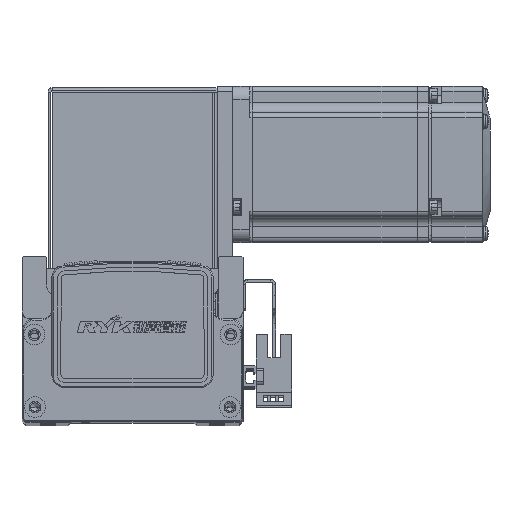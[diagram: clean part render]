
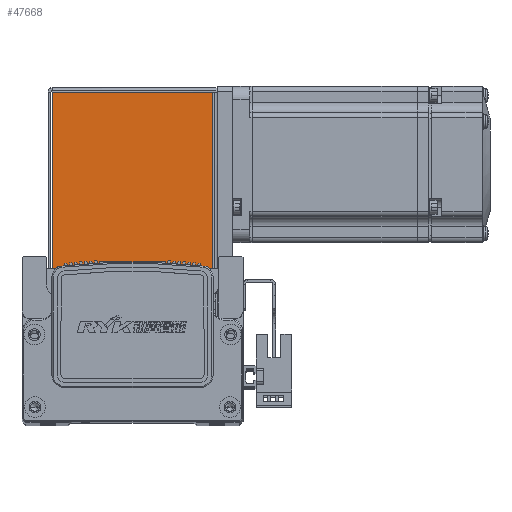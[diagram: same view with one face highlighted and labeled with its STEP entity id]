
A CAD part, top view. The second image highlights one B-rep face of the part: STEP entity #47668.
In plain terms, the highlighted planar face has unit normal (0, 0, 1) as drawn and (0, 0, -1) by its records, which use the part's own axes.
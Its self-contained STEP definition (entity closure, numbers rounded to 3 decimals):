
#16379 = EDGE_CURVE ( 'NONE', #18334, #18279, #54051, .T. ) ;
#16397 = EDGE_CURVE ( 'NONE', #18296, #18279, #54029, .T. ) ;
#16398 = EDGE_CURVE ( 'NONE', #18278, #18334, #54013, .T. ) ;
#16422 = EDGE_CURVE ( 'NONE', #18296, #18278, #54080, .T. ) ;
#18278 = VERTEX_POINT ( 'NONE', #47576 ) ;
#18279 = VERTEX_POINT ( 'NONE', #47567 ) ;
#18296 = VERTEX_POINT ( 'NONE', #47460 ) ;
#18334 = VERTEX_POINT ( 'NONE', #47719 ) ;
#42952 = ORIENTED_EDGE ( 'NONE', *, *, #16422, .T. ) ;
#42978 = ORIENTED_EDGE ( 'NONE', *, *, #16398, .T. ) ;
#43011 = ORIENTED_EDGE ( 'NONE', *, *, #16397, .F. ) ;
#43032 = ORIENTED_EDGE ( 'NONE', *, *, #16379, .T. ) ;
#47460 = CARTESIAN_POINT ( 'NONE',  ( -30.793, 0.737, -35. ) ) ;
#47567 = CARTESIAN_POINT ( 'NONE',  ( 30.763, 0.737, -35. ) ) ;
#47576 = CARTESIAN_POINT ( 'NONE',  ( -30.793, 68.5, -35. ) ) ;
#47668 = ADVANCED_FACE ( 'NONE', ( #63136 ), #51740, .F. ) ;
#47719 = CARTESIAN_POINT ( 'NONE',  ( 30.763, 68.5, -35. ) ) ;
#51740 = PLANE ( 'NONE',  #61949 ) ;
#51763 = DIRECTION ( 'NONE',  ( 0., -1., 0. ) ) ;
#51770 = CARTESIAN_POINT ( 'NONE',  ( 0., 0., -35. ) ) ;
#51780 = DIRECTION ( 'NONE',  ( 0., 0., 1. ) ) ;
#53985 = VECTOR ( 'NONE', #58633, 1000. ) ;
#53987 = VECTOR ( 'NONE', #58454, 1000. ) ;
#54006 = VECTOR ( 'NONE', #58678, 1000. ) ;
#54013 = LINE ( 'NONE', #58524, #53985 ) ;
#54029 = LINE ( 'NONE', #58610, #54006 ) ;
#54051 = LINE ( 'NONE', #58498, #53987 ) ;
#54080 = LINE ( 'NONE', #58768, #54110 ) ;
#54110 = VECTOR ( 'NONE', #58772, 1000. ) ;
#58454 = DIRECTION ( 'NONE',  ( 0., -1., 0. ) ) ;
#58498 = CARTESIAN_POINT ( 'NONE',  ( 30.763, 68.5, -35. ) ) ;
#58524 = CARTESIAN_POINT ( 'NONE',  ( 0., 68.5, -35. ) ) ;
#58610 = CARTESIAN_POINT ( 'NONE',  ( 32.5, 0.737, -35. ) ) ;
#58633 = DIRECTION ( 'NONE',  ( 1., 0., 0. ) ) ;
#58678 = DIRECTION ( 'NONE',  ( 1., 0., 0. ) ) ;
#58768 = CARTESIAN_POINT ( 'NONE',  ( -30.793, 0., -35. ) ) ;
#58772 = DIRECTION ( 'NONE',  ( 0., 1., 0. ) ) ;
#61949 = AXIS2_PLACEMENT_3D ( 'NONE', #51770, #51780, #51763 ) ;
#63136 = FACE_OUTER_BOUND ( 'NONE', #75354, .T. ) ;
#75354 = EDGE_LOOP ( 'NONE', ( #43032, #43011, #42952, #42978 ) ) ;
